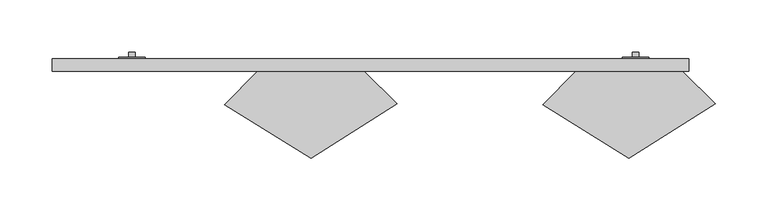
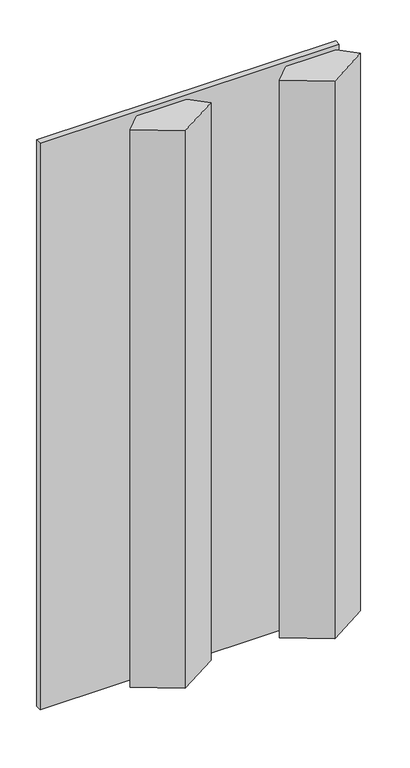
"""IFC4 building model written with IfcOpenShell, lengths in millimetres: proxy geometry, Arktura-SoundForm-Peak-RFA : Arktura-SoundForm-Peak-RFA."""

from ifc_helpers import new_model, si_unit, point, frame, frame_2d, origin, origin_with_axes, place, context, project, spatial, polyline, circle_curve, trimmed, segment, composite_curve, outline, extrude, source, transform, mapped, element, save


def generic_models_12418536(model_context):
    return source(origin(), model_context, "Body", "SweptSolid", [
        extrude(outline(polyline([(558.8, -31.75), (533.4, -31.75), (533.4, -30.3215536), (558.8, -30.3215536), (558.8, -31.75)])), frame((0.0, 0.0, 1133.475), z_axis=(0.0, 0.0, 1.0), x_axis=(1.0, 0.0, 0.0)), (0.0, 0.0, 1.0), 25.4),
        extrude(outline(composite_curve([segment(trimmed(circle_curve(frame_2d((1146.175, 546.1)), 3.175), [point((1146.175, 542.925))], [point((1146.175, 549.275))], False, "CARTESIAN"), True, "CONTINUOUS"), segment(trimmed(circle_curve(frame_2d((1146.175, 546.1)), 3.175), [point((1146.175, 549.275))], [point((1146.175, 542.925))], False, "CARTESIAN"), True, "CONTINUOUS")], self_intersect=False)), frame((0.0, -30.3215536, 0.0), z_axis=(0.0, 1.0, 0.0), x_axis=(0.0, 0.0, 1.0)), (0.0, 0.0, 1.0), 4.9215536),
        extrude(outline(polyline([(76.2, -31.75), (50.8, -31.75), (50.8, -30.3215536), (76.2, -30.3215536), (76.2, -31.75)])), frame((0.0, 0.0, 1133.475), z_axis=(0.0, 0.0, 1.0), x_axis=(1.0, 0.0, 0.0)), (0.0, 0.0, 1.0), 25.4),
        extrude(outline(composite_curve([segment(trimmed(circle_curve(frame_2d((1146.175, 63.5)), 3.175), [point((1146.175, 60.325))], [point((1146.175, 66.675))], False, "CARTESIAN"), True, "CONTINUOUS"), segment(trimmed(circle_curve(frame_2d((1146.175, 63.5)), 3.175), [point((1146.175, 66.675))], [point((1146.175, 60.325))], False, "CARTESIAN"), True, "CONTINUOUS")], self_intersect=False)), frame((0.0, -30.3215536, 0.0), z_axis=(0.0, 1.0, 0.0), x_axis=(0.0, 0.0, 1.0)), (0.0, 0.0, 1.0), 4.9215536),
        extrude(outline(polyline([(558.8, -31.75), (533.4, -31.75), (533.4, -30.3215536), (558.8, -30.3215536), (558.8, -31.75)])), frame((0.0, 0.0, 60.325), z_axis=(0.0, 0.0, 1.0), x_axis=(1.0, 0.0, 0.0)), (0.0, 0.0, 1.0), 25.4),
        extrude(outline(composite_curve([segment(trimmed(circle_curve(frame_2d((73.025, 546.1)), 3.175), [point((73.025, 542.925))], [point((73.025, 549.275))], False, "CARTESIAN"), True, "CONTINUOUS"), segment(trimmed(circle_curve(frame_2d((73.025, 546.1)), 3.175), [point((73.025, 549.275))], [point((73.025, 542.925))], False, "CARTESIAN"), True, "CONTINUOUS")], self_intersect=False)), frame((0.0, -30.3215536, 0.0), z_axis=(0.0, 1.0, 0.0), x_axis=(0.0, 0.0, 1.0)), (0.0, 0.0, 1.0), 4.9215536),
        extrude(outline(polyline([(76.2, -31.75), (50.8, -31.75), (50.8, -30.3215536), (76.2, -30.3215536), (76.2, -31.75)])), frame((0.0, 0.0, 60.325), z_axis=(0.0, 0.0, 1.0), x_axis=(1.0, 0.0, 0.0)), (0.0, 0.0, 1.0), 25.4),
        extrude(outline(composite_curve([segment(trimmed(circle_curve(frame_2d((73.025, 63.5)), 3.175), [point((73.025, 60.325))], [point((73.025, 66.675))], False, "CARTESIAN"), True, "CONTINUOUS"), segment(trimmed(circle_curve(frame_2d((73.025, 63.5)), 3.175), [point((73.025, 66.675))], [point((73.025, 60.325))], False, "CARTESIAN"), True, "CONTINUOUS")], self_intersect=False)), frame((0.0, -30.3215536, 0.0), z_axis=(0.0, 1.0, 0.0), x_axis=(0.0, 0.0, 1.0)), (0.0, 0.0, 1.0), 4.9215536),
        extrude(outline(polyline([(-12.7, -43.749976), (-12.7, -31.75), (596.9, -31.75), (596.9, -43.749976), (-12.7, -43.749976)])), origin_with_axes(), (0.0, 0.0, 1.0), 1219.2),
        extrude(outline(polyline([(539.75, -43.7499999), (590.5500179, -43.7499999), (622.3, -74.9283805), (539.75, -127.0), (457.2, -75.499982), (488.9499821, -43.7499999), (539.75, -43.7499999)])), frame((0.0, 0.0, 9.525), z_axis=(0.0, 0.0, 1.0), x_axis=(1.0, 0.0, 0.0)), (0.0, 0.0, 1.0), 1200.15),
        extrude(outline(polyline([(234.95, -43.7499999), (285.7500179, -43.7499999), (317.5, -74.9283805), (234.95, -127.0), (152.4, -75.499982), (184.1499821, -43.7499999), (234.95, -43.7499999)])), frame((0.0, 0.0, 9.525), z_axis=(0.0, 0.0, 1.0), x_axis=(1.0, 0.0, 0.0)), (0.0, 0.0, 1.0), 1200.15),
    ])


if __name__ == "__main__":
    model = new_model("IFC4")
    model_context = context("Model", 3, world=origin())
    ifc_project = project(units=[si_unit("LENGTHUNIT", "METRE", prefix="MILLI")], contexts=[model_context])
    site = spatial("IfcSite", under=ifc_project)
    building = spatial("IfcBuilding", under=site)
    placement = place(None, origin())
    generic_models_shape = generic_models_12418536(model_context)
    element("IfcBuildingElementProxy", 1, Name="Arktura-SoundForm-Peak-RFA : Arktura-SoundForm-Peak-RFA", ObjectType="Arktura-SoundForm-Peak-RFA : Arktura-SoundForm-Peak-RFA", at=placement, inside=building, context=model_context, shape_type="MappedRepresentation", body=[
        mapped(generic_models_shape, transform((0.0, 0.0, 0.0), x_axis=(1.0, 0.0, 0.0), y_axis=(0.0, 1.0, 0.0), z_axis=(0.0, 0.0, 1.0))),
    ])
    save(model, "model.ifc")
